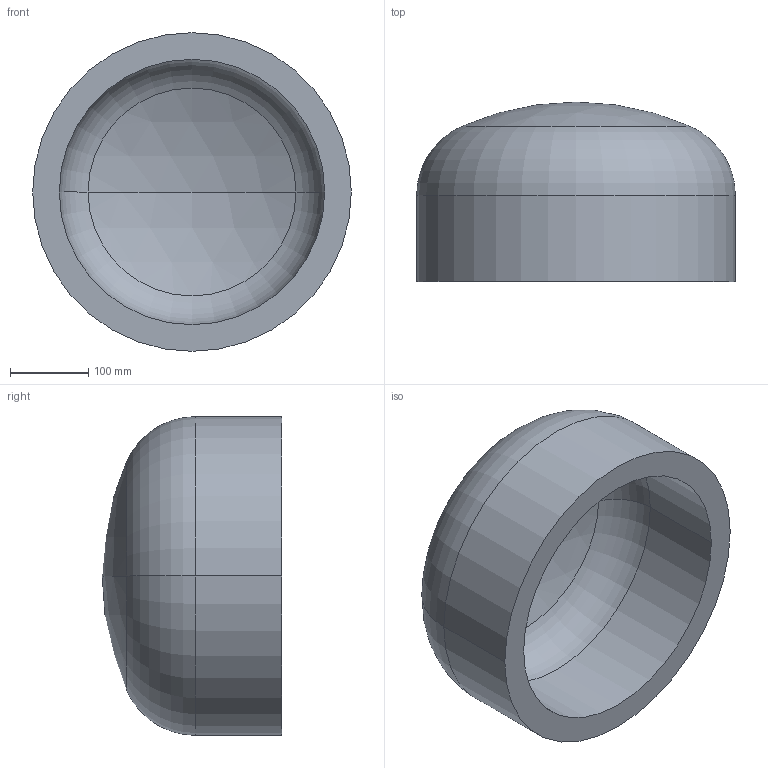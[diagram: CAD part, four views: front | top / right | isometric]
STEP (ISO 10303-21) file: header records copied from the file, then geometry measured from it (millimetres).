
FILE_DESCRIPTION (( 'STEP AP203' ), '1' );
FILE_NAME ('DIN 28013 Korbbogenform_-_Boden DIN 28013 - 406,4 x 110 - I - s=34.step', '2016-07-01T07:50:26', ( '' ), ( '' ), 'SwSTEP 2.0', 'SolidWorks 2013', '' );
FILE_SCHEMA (( 'CONFIG_CONTROL_DESIGN' ));
Length unit declared in the file: millimetre
Products named in the file (1): DIN 28013 Korbbogenform_-_Boden DIN 28013 - 406,4 x 110 - I - s=34
Bounding box: 406.4 x 228.84 x 406.4 mm (x, y, z)
Volume: 9865778.5 mm3; surface area: 622538.6 mm2
Topology: 1 solids, 1 shells, 13 faces, 24 edges, 14 vertices
Faces by surface type: torus 4, cylinder 4, sphere 4, plane 1
Entity records: 407 total; most frequent: DIRECTION 72, CARTESIAN_POINT 52, ORIENTED_EDGE 48, AXIS2_PLACEMENT_3D 34, EDGE_CURVE 24, CIRCLE 20, VERTEX_POINT 14, EDGE_LOOP 14
